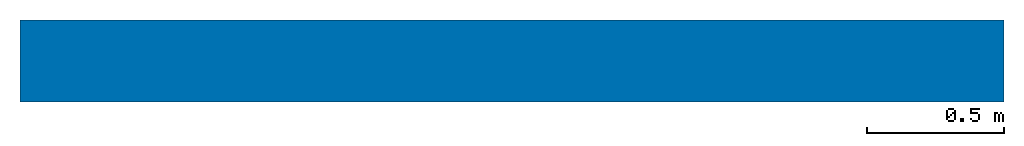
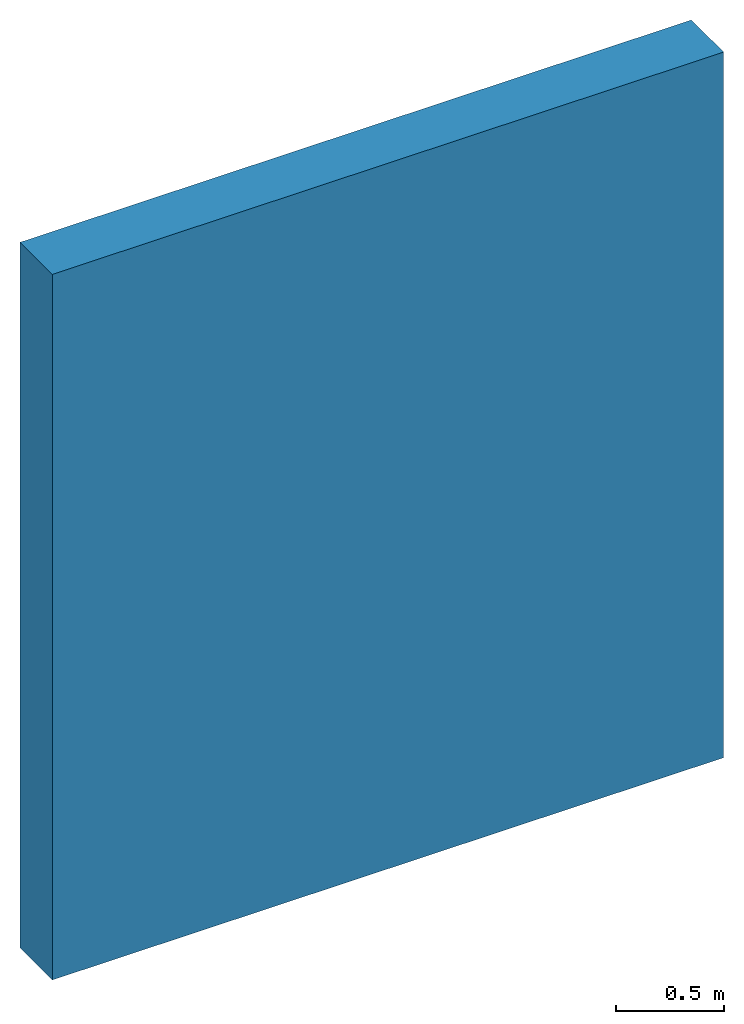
# One storey: 1 wall.
"""IFC2X3 building model written with IfcOpenShell, lengths in millimetres."""

from ifc_helpers import new_model, entity, si_unit, converted_unit, derived_unit, direction, frame, frame_2d, origin, place, context, subcontext, project, spatial, rectangle, extrude, material, layer, layer_set, layer_usage, type_object, element, save


model = new_model("IFC2X3")

# Units and contexts
model_context = context("Model", 3, precision=0.01, world=origin(), true_north=direction((6.12303176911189e-17, 1.0)))
body_context = subcontext(model_context, "Body", "Model", "MODEL_VIEW")
ifc_project = project(units=[si_unit("LENGTHUNIT", "METRE", prefix="MILLI"), si_unit("AREAUNIT", "SQUARE_METRE"), si_unit("VOLUMEUNIT", "CUBIC_METRE"), converted_unit("PLANEANGLEUNIT", "DEGREE", entity("IfcRatioMeasure", 0.0174532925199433), si_unit("PLANEANGLEUNIT", "RADIAN"), dimensions=[0, 0, 0, 0, 0, 0, 0]), si_unit("MASSUNIT", "GRAM", prefix="KILO"), derived_unit("MASSDENSITYUNIT", [(si_unit("MASSUNIT", "GRAM", prefix="KILO"), 1), (si_unit("LENGTHUNIT", "METRE"), -3)]), derived_unit("MOMENTOFINERTIAUNIT", [(si_unit("LENGTHUNIT", "METRE"), 4)]), si_unit("TIMEUNIT", "SECOND"), si_unit("FREQUENCYUNIT", "HERTZ"), si_unit("THERMODYNAMICTEMPERATUREUNIT", "DEGREE_CELSIUS"), derived_unit("THERMALTRANSMITTANCEUNIT", [(si_unit("MASSUNIT", "GRAM", prefix="KILO"), 1), (si_unit("THERMODYNAMICTEMPERATUREUNIT", "KELVIN"), -1), (si_unit("TIMEUNIT", "SECOND"), -3)]), derived_unit("VOLUMETRICFLOWRATEUNIT", [(si_unit("LENGTHUNIT", "METRE"), 3), (si_unit("TIMEUNIT", "SECOND"), -1)]), si_unit("ELECTRICCURRENTUNIT", "AMPERE"), si_unit("ELECTRICVOLTAGEUNIT", "VOLT"), si_unit("POWERUNIT", "WATT"), si_unit("FORCEUNIT", "NEWTON", prefix="KILO"), si_unit("ILLUMINANCEUNIT", "LUX"), si_unit("LUMINOUSFLUXUNIT", "LUMEN"), si_unit("LUMINOUSINTENSITYUNIT", "CANDELA"), derived_unit("USERDEFINED", [(si_unit("MASSUNIT", "GRAM", prefix="KILO"), -1), (si_unit("LENGTHUNIT", "METRE"), -2), (si_unit("TIMEUNIT", "SECOND"), 3), (si_unit("LUMINOUSFLUXUNIT", "LUMEN"), 1)]), derived_unit("LINEARVELOCITYUNIT", [(si_unit("LENGTHUNIT", "METRE"), 1), (si_unit("TIMEUNIT", "SECOND"), -1)]), si_unit("PRESSUREUNIT", "PASCAL"), derived_unit("USERDEFINED", [(si_unit("LENGTHUNIT", "METRE"), -2), (si_unit("MASSUNIT", "GRAM", prefix="KILO"), 1), (si_unit("TIMEUNIT", "SECOND"), -2)]), derived_unit("LINEARFORCEUNIT", [(si_unit("MASSUNIT", "GRAM", prefix="KILO"), 1), (si_unit("LENGTHUNIT", "METRE"), 1), (si_unit("TIMEUNIT", "SECOND"), -2), (si_unit("LENGTHUNIT", "METRE"), -1)]), derived_unit("PLANARFORCEUNIT", [(si_unit("MASSUNIT", "GRAM", prefix="KILO"), 1), (si_unit("LENGTHUNIT", "METRE"), 1), (si_unit("TIMEUNIT", "SECOND"), -2), (si_unit("LENGTHUNIT", "METRE"), -2)])], contexts=[model_context])

# Site, building, storey
site_placement = place(None, origin())
site = spatial("IfcSite", under=ifc_project, at=site_placement, Name="Default", CompositionType="ELEMENT")
building_placement = place(site_placement, origin())
building = spatial("IfcBuilding", under=site, at=building_placement, CompositionType="ELEMENT")
storey_placement = place(building_placement, origin())
storey = spatial("IfcBuildingStorey", under=building, at=storey_placement, Name="Level 0", CompositionType="ELEMENT", Elevation=0.0)

# Wall
ifc_material = material(Name="Concrete, Cast In Situ")
ifc_layer = layer(ifc_material, 300.0)
ifc_layer_set = layer_set([ifc_layer], Name="Basic Wall:Wall-Fnd_300Con_Footing")
ifc_layer_usage = layer_usage(ifc_layer_set, "AXIS2", "NEGATIVE", 150.0)
wall_type = type_object("IfcWallType", Name="Basic Wall:Wall-Fnd_300Con_Footing", PredefinedType="STANDARD", material=ifc_layer_set)
wall_placement = place(storey_placement, frame((-7705.22640173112, 1137.4537383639, 0.0)))
element("IfcWallStandardCase", 1, at=wall_placement, inside=storey, type_object=wall_type, material=ifc_layer_usage, Name="Basic Wall:Wall-Fnd_300Con_Footing", ObjectType="Basic Wall:Wall-Fnd_300Con_Footing", context=body_context, shape_type="SweptSolid", body=[
    extrude(rectangle(XDim=3600.0, YDim=300.0, at=frame_2d((1800.0, 0.0), x_axis=(-1.0, 0.0))), origin(), (0.0, 0.0, 1.0), 4000.0),
])

save(model, "model.ifc")
